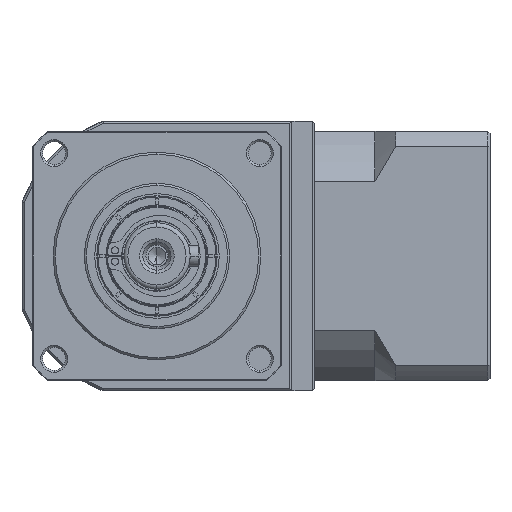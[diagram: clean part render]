
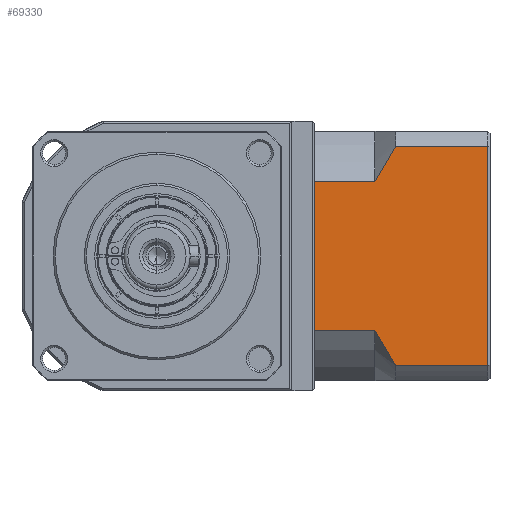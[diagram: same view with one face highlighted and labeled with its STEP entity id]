
A CAD part, left-side view. The second image highlights one B-rep face of the part: STEP entity #69330.
In plain terms, the highlighted planar face has unit normal (-1, 0, 0).
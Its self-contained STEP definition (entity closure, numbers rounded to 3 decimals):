
#1102 = ORIENTED_EDGE ( 'NONE', *, *, #135848, .T. ) ;
#2225 = FACE_OUTER_BOUND ( 'NONE', #92787, .T. ) ;
#3908 = CARTESIAN_POINT ( 'NONE',  ( -26.181, -102.118, -98. ) ) ;
#4875 = ORIENTED_EDGE ( 'NONE', *, *, #158360, .F. ) ;
#5329 = ORIENTED_EDGE ( 'NONE', *, *, #65302, .T. ) ;
#8410 = CARTESIAN_POINT ( 'NONE',  ( -26.181, -78.143, -148.172 ) ) ;
#9232 = PLANE ( 'NONE',  #15925 ) ;
#12974 = CARTESIAN_POINT ( 'NONE',  ( -26.181, -74.918, -150.915 ) ) ;
#13358 = CARTESIAN_POINT ( 'NONE',  ( -26.181, -78.145, -100.738 ) ) ;
#15925 = AXIS2_PLACEMENT_3D ( 'NONE', #145055, #71849, #157025 ) ;
#20701 = CARTESIAN_POINT ( 'NONE',  ( -26.181, -79.918, -150.915 ) ) ;
#24667 = DIRECTION ( 'NONE',  ( 0., 1., 0. ) ) ;
#25598 = CARTESIAN_POINT ( 'NONE',  ( -26.181, -75.666, -104.977 ) ) ;
#28207 = VECTOR ( 'NONE', #95924, 1000. ) ;
#30821 = B_SPLINE_CURVE_WITH_KNOTS ( 'NONE', 3,
 ( #69455, #154704, #81705, #8410, #94130, #20701 ),
 .UNSPECIFIED., .F., .F.,
 ( 4, 2, 4 ),
 ( 0.1, 0.104, 0.109 ),
 .UNSPECIFIED. ) ;
#40414 = CARTESIAN_POINT ( 'NONE',  ( -26.181, -60.418, -106.429 ) ) ;
#41976 = LINE ( 'NONE', #79359, #135764 ) ;
#49635 = CARTESIAN_POINT ( 'NONE',  ( -26.181, -79.018, -99.36 ) ) ;
#50227 = DIRECTION ( 'NONE',  ( 0., 0., 1. ) ) ;
#53606 = CARTESIAN_POINT ( 'NONE',  ( -26.181, -102.118, -150.915 ) ) ;
#54650 = LINE ( 'NONE', #12974, #119863 ) ;
#57061 = VERTEX_POINT ( 'NONE', #134894 ) ;
#59544 = VERTEX_POINT ( 'NONE', #117496 ) ;
#60221 = DIRECTION ( 'NONE',  ( 0., 1., 0. ) ) ;
#61132 = VERTEX_POINT ( 'NONE', #95494 ) ;
#64699 = VERTEX_POINT ( 'NONE', #3908 ) ;
#65302 = EDGE_CURVE ( 'NONE', #61132, #72371, #30821, .T. ) ;
#66906 = VERTEX_POINT ( 'NONE', #122471 ) ;
#68528 = EDGE_CURVE ( 'NONE', #89912, #64699, #105884, .T. ) ;
#69064 = VERTEX_POINT ( 'NONE', #40414 ) ;
#69330 = ADVANCED_FACE ( 'NONE', ( #2225 ), #9232, .F. ) ;
#69455 = CARTESIAN_POINT ( 'NONE',  ( -26.181, -74.918, -142.485 ) ) ;
#71849 = DIRECTION ( 'NONE',  ( 1., 0., 0. ) ) ;
#72371 = VERTEX_POINT ( 'NONE', #74711 ) ;
#72559 = VECTOR ( 'NONE', #90971, 1000. ) ;
#74039 = EDGE_CURVE ( 'NONE', #66906, #64699, #125888, .T. ) ;
#74711 = CARTESIAN_POINT ( 'NONE',  ( -26.181, -79.918, -150.915 ) ) ;
#78570 = CARTESIAN_POINT ( 'NONE',  ( -26.181, -60.418, -154.457 ) ) ;
#79359 = CARTESIAN_POINT ( 'NONE',  ( -26.181, -74.918, -106.429 ) ) ;
#81705 = CARTESIAN_POINT ( 'NONE',  ( -26.181, -76.469, -145.367 ) ) ;
#89912 = VERTEX_POINT ( 'NONE', #53606 ) ;
#90971 = DIRECTION ( 'NONE',  ( 0., 0., -1. ) ) ;
#91756 = DIRECTION ( 'NONE',  ( 0., -1., 0. ) ) ;
#92787 = EDGE_LOOP ( 'NONE', ( #93909, #107293, #111270, #124628, #128191, #1102, #4875, #5329 ) ) ;
#93909 = ORIENTED_EDGE ( 'NONE', *, *, #125544, .F. ) ;
#94130 = CARTESIAN_POINT ( 'NONE',  ( -26.181, -79.017, -149.552 ) ) ;
#95494 = CARTESIAN_POINT ( 'NONE',  ( -26.181, -74.918, -142.485 ) ) ;
#95924 = DIRECTION ( 'NONE',  ( 0., -1., 0. ) ) ;
#97694 = CARTESIAN_POINT ( 'NONE',  ( -26.181, -74.918, -142.485 ) ) ;
#98993 = CARTESIAN_POINT ( 'NONE',  ( -26.181, -76.469, -103.546 ) ) ;
#102087 = VECTOR ( 'NONE', #50227, 1000. ) ;
#104150 = LINE ( 'NONE', #97694, #142500 ) ;
#105140 = EDGE_CURVE ( 'NONE', #66906, #59544, #118738, .T. ) ;
#105884 = LINE ( 'NONE', #124162, #102087 ) ;
#107293 = ORIENTED_EDGE ( 'NONE', *, *, #68528, .T. ) ;
#111270 = ORIENTED_EDGE ( 'NONE', *, *, #74039, .F. ) ;
#111282 = CARTESIAN_POINT ( 'NONE',  ( -26.181, -74.918, -106.429 ) ) ;
#117496 = CARTESIAN_POINT ( 'NONE',  ( -26.181, -74.918, -106.429 ) ) ;
#118738 = B_SPLINE_CURVE_WITH_KNOTS ( 'NONE', 3,
 ( #135274, #49635, #13358, #98993, #25598, #111282 ),
 .UNSPECIFIED., .F., .F.,
 ( 4, 2, 4 ),
 ( 0.052, 0.057, 0.062 ),
 .UNSPECIFIED. ) ;
#118993 = CARTESIAN_POINT ( 'NONE',  ( -26.181, -74.918, -98. ) ) ;
#119863 = VECTOR ( 'NONE', #24667, 1000. ) ;
#122471 = CARTESIAN_POINT ( 'NONE',  ( -26.181, -79.918, -98. ) ) ;
#124162 = CARTESIAN_POINT ( 'NONE',  ( -26.181, -102.118, -154.457 ) ) ;
#124628 = ORIENTED_EDGE ( 'NONE', *, *, #105140, .T. ) ;
#125544 = EDGE_CURVE ( 'NONE', #89912, #72371, #54650, .T. ) ;
#125888 = LINE ( 'NONE', #118993, #28207 ) ;
#128191 = ORIENTED_EDGE ( 'NONE', *, *, #133144, .F. ) ;
#133144 = EDGE_CURVE ( 'NONE', #69064, #59544, #41976, .T. ) ;
#134894 = CARTESIAN_POINT ( 'NONE',  ( -26.181, -60.418, -142.485 ) ) ;
#135274 = CARTESIAN_POINT ( 'NONE',  ( -26.181, -79.918, -98. ) ) ;
#135764 = VECTOR ( 'NONE', #91756, 1000. ) ;
#135848 = EDGE_CURVE ( 'NONE', #69064, #57061, #137603, .T. ) ;
#137603 = LINE ( 'NONE', #78570, #72559 ) ;
#142500 = VECTOR ( 'NONE', #60221, 1000. ) ;
#145055 = CARTESIAN_POINT ( 'NONE',  ( -26.181, -102.618, -154.457 ) ) ;
#154704 = CARTESIAN_POINT ( 'NONE',  ( -26.181, -75.668, -143.941 ) ) ;
#157025 = DIRECTION ( 'NONE',  ( 0., 1., 0. ) ) ;
#158360 = EDGE_CURVE ( 'NONE', #61132, #57061, #104150, .T. ) ;
